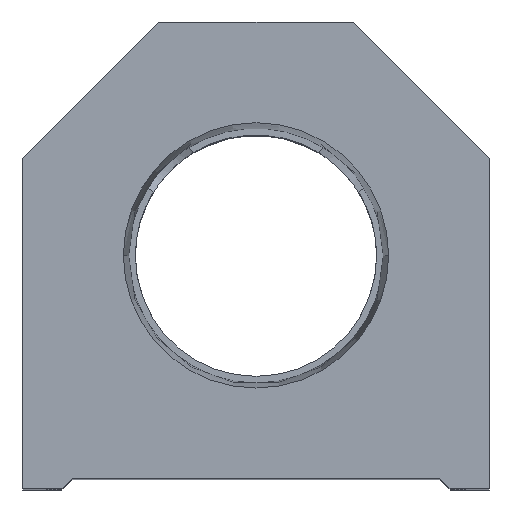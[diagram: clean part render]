
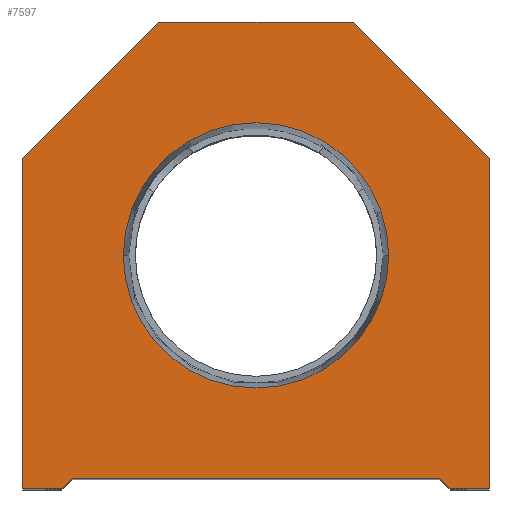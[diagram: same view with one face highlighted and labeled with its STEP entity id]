
A CAD part, top view. The second image highlights one B-rep face of the part: STEP entity #7597.
In plain terms, the highlighted planar face has unit normal (0, 0, 1).
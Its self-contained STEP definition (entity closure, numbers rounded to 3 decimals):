
#42 = VERTEX_POINT ( 'NONE', #78 ) ;
#66 = EDGE_LOOP ( 'NONE', ( #9038, #7631 ) ) ;
#78 = CARTESIAN_POINT ( 'NONE',  ( 9.25, 44.5, 0. ) ) ;
#93 = ORIENTED_EDGE ( 'NONE', *, *, #9453, .T. ) ;
#166 = ORIENTED_EDGE ( 'NONE', *, *, #7830, .T. ) ;
#206 = DIRECTION ( 'NONE',  ( 0.707, 0.707, 0. ) ) ;
#224 = DIRECTION ( 'NONE',  ( 0., -1., 0. ) ) ;
#258 = VERTEX_POINT ( 'NONE', #9904 ) ;
#408 = VERTEX_POINT ( 'NONE', #9506 ) ;
#489 = CARTESIAN_POINT ( 'NONE',  ( -18.5, 0., 0. ) ) ;
#723 = VECTOR ( 'NONE', #5810, 1000. ) ;
#1086 = ORIENTED_EDGE ( 'NONE', *, *, #5582, .T. ) ;
#1384 = CARTESIAN_POINT ( 'NONE',  ( -17.5, 1., 0. ) ) ;
#1554 = VERTEX_POINT ( 'NONE', #12482 ) ;
#1580 = CARTESIAN_POINT ( 'NONE',  ( 18.5, 0., 0. ) ) ;
#1587 = CARTESIAN_POINT ( 'NONE',  ( 17.5, 1., 0. ) ) ;
#1605 = EDGE_LOOP ( 'NONE', ( #10930, #4426, #166, #11347, #7191, #2957, #3665, #1086, #93, #2265 ) ) ;
#1845 = EDGE_CURVE ( 'NONE', #9616, #408, #7795, .T. ) ;
#1983 = LINE ( 'NONE', #3898, #10179 ) ;
#2040 = DIRECTION ( 'NONE',  ( -0.707, -0.707, 0. ) ) ;
#2265 = ORIENTED_EDGE ( 'NONE', *, *, #7166, .T. ) ;
#2326 = EDGE_CURVE ( 'NONE', #408, #4212, #10461, .T. ) ;
#2389 = CIRCLE ( 'NONE', #9742, 12.647 ) ;
#2485 = EDGE_CURVE ( 'NONE', #5682, #1554, #2389, .T. ) ;
#2780 = VERTEX_POINT ( 'NONE', #1384 ) ;
#2874 = CARTESIAN_POINT ( 'NONE',  ( 9.25, 44.5, 0. ) ) ;
#2901 = LINE ( 'NONE', #2962, #5604 ) ;
#2957 = ORIENTED_EDGE ( 'NONE', *, *, #2326, .T. ) ;
#2962 = CARTESIAN_POINT ( 'NONE',  ( -22.25, 31.5, 0. ) ) ;
#3066 = VECTOR ( 'NONE', #9187, 1000. ) ;
#3075 = AXIS2_PLACEMENT_3D ( 'NONE', #5309, #5117, #10241 ) ;
#3665 = ORIENTED_EDGE ( 'NONE', *, *, #6909, .T. ) ;
#3898 = CARTESIAN_POINT ( 'NONE',  ( 22.25, 31.5, 0. ) ) ;
#4212 = VERTEX_POINT ( 'NONE', #13006 ) ;
#4279 = LINE ( 'NONE', #5206, #8518 ) ;
#4426 = ORIENTED_EDGE ( 'NONE', *, *, #8933, .T. ) ;
#4484 = CARTESIAN_POINT ( 'NONE',  ( 22.25, 0., 0. ) ) ;
#4659 = CARTESIAN_POINT ( 'NONE',  ( 0., 0., 0. ) ) ;
#5100 = DIRECTION ( 'NONE',  ( -1., 0., 0. ) ) ;
#5117 = DIRECTION ( 'NONE',  ( 0., 0., 1. ) ) ;
#5206 = CARTESIAN_POINT ( 'NONE',  ( -22.25, 0., 0. ) ) ;
#5252 = LINE ( 'NONE', #11023, #10628 ) ;
#5309 = CARTESIAN_POINT ( 'NONE',  ( 0., 22.25, 0. ) ) ;
#5428 = DIRECTION ( 'NONE',  ( 1., 0., 0. ) ) ;
#5582 = EDGE_CURVE ( 'NONE', #42, #258, #7145, .T. ) ;
#5604 = VECTOR ( 'NONE', #2040, 1000. ) ;
#5682 = VERTEX_POINT ( 'NONE', #8392 ) ;
#5798 = DIRECTION ( 'NONE',  ( 0., 0., 1. ) ) ;
#5810 = DIRECTION ( 'NONE',  ( 1., 0., 0. ) ) ;
#6075 = VERTEX_POINT ( 'NONE', #489 ) ;
#6411 = CARTESIAN_POINT ( 'NONE',  ( -17.5, 0., 0. ) ) ;
#6661 = VECTOR ( 'NONE', #10139, 1000. ) ;
#6909 = EDGE_CURVE ( 'NONE', #4212, #42, #1983, .T. ) ;
#7128 = CARTESIAN_POINT ( 'NONE',  ( 9.25, 9.25, 0. ) ) ;
#7145 = LINE ( 'NONE', #2874, #8910 ) ;
#7166 = EDGE_CURVE ( 'NONE', #10518, #8288, #4279, .T. ) ;
#7188 = VERTEX_POINT ( 'NONE', #1587 ) ;
#7191 = ORIENTED_EDGE ( 'NONE', *, *, #1845, .T. ) ;
#7348 = CARTESIAN_POINT ( 'NONE',  ( -17.5, 1., 0. ) ) ;
#7597 = ADVANCED_FACE ( 'NONE', ( #9520, #7697 ), #10500, .T. ) ;
#7631 = ORIENTED_EDGE ( 'NONE', *, *, #2485, .F. ) ;
#7697 = FACE_OUTER_BOUND ( 'NONE', #1605, .T. ) ;
#7795 = LINE ( 'NONE', #7857, #723 ) ;
#7830 = EDGE_CURVE ( 'NONE', #2780, #7188, #11143, .T. ) ;
#7857 = CARTESIAN_POINT ( 'NONE',  ( 17.5, 0., 0. ) ) ;
#8288 = VERTEX_POINT ( 'NONE', #10054 ) ;
#8372 = VECTOR ( 'NONE', #5428, 1000. ) ;
#8392 = CARTESIAN_POINT ( 'NONE',  ( -12.647, 22.25, 0. ) ) ;
#8504 = DIRECTION ( 'NONE',  ( 0., 1., 0. ) ) ;
#8518 = VECTOR ( 'NONE', #224, 1000. ) ;
#8874 = EDGE_CURVE ( 'NONE', #1554, #5682, #10202, .T. ) ;
#8910 = VECTOR ( 'NONE', #5100, 1000. ) ;
#8933 = EDGE_CURVE ( 'NONE', #6075, #2780, #5252, .T. ) ;
#9038 = ORIENTED_EDGE ( 'NONE', *, *, #8874, .F. ) ;
#9139 = AXIS2_PLACEMENT_3D ( 'NONE', #4659, #12565, #11629 ) ;
#9187 = DIRECTION ( 'NONE',  ( 1., 0., 0. ) ) ;
#9453 = EDGE_CURVE ( 'NONE', #258, #10518, #2901, .T. ) ;
#9506 = CARTESIAN_POINT ( 'NONE',  ( 22.25, 0., 0. ) ) ;
#9520 = FACE_BOUND ( 'NONE', #66, .T. ) ;
#9616 = VERTEX_POINT ( 'NONE', #1580 ) ;
#9742 = AXIS2_PLACEMENT_3D ( 'NONE', #10782, #5798, #9808 ) ;
#9808 = DIRECTION ( 'NONE',  ( 1., 0., 0. ) ) ;
#9871 = DIRECTION ( 'NONE',  ( -0.707, 0.707, 0. ) ) ;
#9904 = CARTESIAN_POINT ( 'NONE',  ( -9.25, 44.5, 0. ) ) ;
#10054 = CARTESIAN_POINT ( 'NONE',  ( -22.25, 0., 0. ) ) ;
#10139 = DIRECTION ( 'NONE',  ( 0.707, -0.707, 0. ) ) ;
#10179 = VECTOR ( 'NONE', #9871, 1000. ) ;
#10202 = CIRCLE ( 'NONE', #3075, 12.647 ) ;
#10241 = DIRECTION ( 'NONE',  ( 1., 0., 0. ) ) ;
#10293 = EDGE_CURVE ( 'NONE', #7188, #9616, #11991, .T. ) ;
#10347 = LINE ( 'NONE', #6411, #8372 ) ;
#10461 = LINE ( 'NONE', #4484, #11190 ) ;
#10500 = PLANE ( 'NONE',  #9139 ) ;
#10518 = VERTEX_POINT ( 'NONE', #10525 ) ;
#10525 = CARTESIAN_POINT ( 'NONE',  ( -22.25, 31.5, 0. ) ) ;
#10628 = VECTOR ( 'NONE', #206, 1000. ) ;
#10782 = CARTESIAN_POINT ( 'NONE',  ( 0., 22.25, 0. ) ) ;
#10930 = ORIENTED_EDGE ( 'NONE', *, *, #12664, .T. ) ;
#11023 = CARTESIAN_POINT ( 'NONE',  ( -9.25, 9.25, 0. ) ) ;
#11143 = LINE ( 'NONE', #7348, #3066 ) ;
#11190 = VECTOR ( 'NONE', #8504, 1000. ) ;
#11347 = ORIENTED_EDGE ( 'NONE', *, *, #10293, .T. ) ;
#11629 = DIRECTION ( 'NONE',  ( 1., 0., 0. ) ) ;
#11991 = LINE ( 'NONE', #7128, #6661 ) ;
#12482 = CARTESIAN_POINT ( 'NONE',  ( 12.647, 22.25, 0. ) ) ;
#12565 = DIRECTION ( 'NONE',  ( 0., 0., 1. ) ) ;
#12664 = EDGE_CURVE ( 'NONE', #8288, #6075, #10347, .T. ) ;
#13006 = CARTESIAN_POINT ( 'NONE',  ( 22.25, 31.5, 0. ) ) ;
